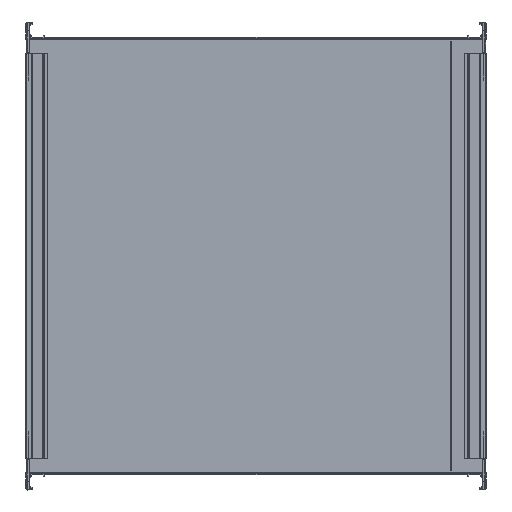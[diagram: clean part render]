
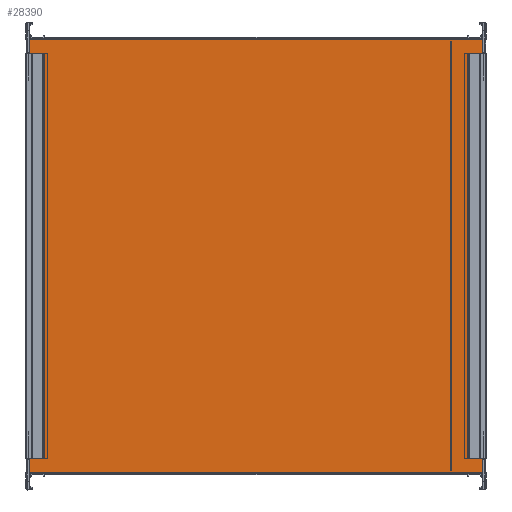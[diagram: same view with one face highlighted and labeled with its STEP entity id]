
A CAD part, front view. The second image highlights one B-rep face of the part: STEP entity #28390.
In plain terms, the highlighted planar face has unit normal (0, -1, 0).
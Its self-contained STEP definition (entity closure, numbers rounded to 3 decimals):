
#865=FACE_BOUND('',#3553,.T.);
#866=FACE_BOUND('',#3554,.T.);
#2084=FACE_OUTER_BOUND('',#3552,.T.);
#3552=EDGE_LOOP('',(#22819,#22820,#22821,#22822,#22823,#22824,#22825,#22826,
#22827,#22828,#22829,#22830));
#3553=EDGE_LOOP('',(#22831,#22832,#22833,#22834));
#3554=EDGE_LOOP('',(#22835,#22836,#22837,#22838));
#5057=LINE('',#39225,#8001);
#5473=LINE('',#42931,#8417);
#6246=LINE('',#45409,#9190);
#6681=LINE('',#47967,#9625);
#6719=LINE('',#48101,#9663);
#6748=LINE('',#48158,#9692);
#6750=LINE('',#48161,#9694);
#6756=LINE('',#48176,#9700);
#6761=LINE('',#48185,#9705);
#6773=LINE('',#48210,#9717);
#6774=LINE('',#48212,#9718);
#6775=LINE('',#48214,#9719);
#6776=LINE('',#48216,#9720);
#6777=LINE('',#48217,#9721);
#6778=LINE('',#48218,#9722);
#6779=LINE('',#48219,#9723);
#6780=LINE('',#48222,#9724);
#6781=LINE('',#48224,#9725);
#6782=LINE('',#48226,#9726);
#6783=LINE('',#48227,#9727);
#8001=VECTOR('',#30939,10.);
#8417=VECTOR('',#31539,10.);
#9190=VECTOR('',#32964,10.);
#9625=VECTOR('',#33897,10.);
#9663=VECTOR('',#34007,10.);
#9692=VECTOR('',#34092,10.);
#9694=VECTOR('',#34096,10.);
#9700=VECTOR('',#34118,10.);
#9705=VECTOR('',#34125,10.);
#9717=VECTOR('',#34141,10.);
#9718=VECTOR('',#34142,10.);
#9719=VECTOR('',#34143,10.);
#9720=VECTOR('',#34144,10.);
#9721=VECTOR('',#34145,10.);
#9722=VECTOR('',#34146,10.);
#9723=VECTOR('',#34147,10.);
#9724=VECTOR('',#34148,10.);
#9725=VECTOR('',#34149,10.);
#9726=VECTOR('',#34150,10.);
#9727=VECTOR('',#34151,10.);
#11002=VERTEX_POINT('',#39222);
#11003=VERTEX_POINT('',#39224);
#11508=VERTEX_POINT('',#42928);
#11509=VERTEX_POINT('',#42930);
#12141=VERTEX_POINT('',#45356);
#12166=VERTEX_POINT('',#45406);
#12167=VERTEX_POINT('',#45408);
#12594=VERTEX_POINT('',#47964);
#12595=VERTEX_POINT('',#47966);
#12620=VERTEX_POINT('',#48016);
#12656=VERTEX_POINT('',#48175);
#12659=VERTEX_POINT('',#48183);
#12670=VERTEX_POINT('',#48209);
#12671=VERTEX_POINT('',#48211);
#12672=VERTEX_POINT('',#48213);
#12673=VERTEX_POINT('',#48215);
#12674=VERTEX_POINT('',#48220);
#12675=VERTEX_POINT('',#48221);
#12676=VERTEX_POINT('',#48223);
#12677=VERTEX_POINT('',#48225);
#13911=EDGE_CURVE('',#11002,#11003,#5057,.T.);
#14661=EDGE_CURVE('',#11509,#11508,#5473,.T.);
#15547=EDGE_CURVE('',#12167,#12166,#6246,.T.);
#16131=EDGE_CURVE('',#12595,#12594,#6681,.T.);
#16201=EDGE_CURVE('',#12141,#12620,#6719,.T.);
#16230=EDGE_CURVE('',#12166,#12595,#6748,.T.);
#16232=EDGE_CURVE('',#12167,#12594,#6750,.T.);
#16238=EDGE_CURVE('',#12656,#12141,#6756,.T.);
#16243=EDGE_CURVE('',#12620,#12659,#6761,.T.);
#16255=EDGE_CURVE('',#12670,#11508,#6773,.T.);
#16256=EDGE_CURVE('',#12670,#12671,#6774,.T.);
#16257=EDGE_CURVE('',#12672,#12671,#6775,.T.);
#16258=EDGE_CURVE('',#12672,#12673,#6776,.T.);
#16259=EDGE_CURVE('',#12673,#11003,#6777,.T.);
#16260=EDGE_CURVE('',#12656,#11002,#6778,.T.);
#16261=EDGE_CURVE('',#12659,#11509,#6779,.T.);
#16262=EDGE_CURVE('',#12674,#12675,#6780,.T.);
#16263=EDGE_CURVE('',#12676,#12675,#6781,.T.);
#16264=EDGE_CURVE('',#12677,#12676,#6782,.T.);
#16265=EDGE_CURVE('',#12677,#12674,#6783,.T.);
#22819=ORIENTED_EDGE('',*,*,#14661,.T.);
#22820=ORIENTED_EDGE('',*,*,#16255,.F.);
#22821=ORIENTED_EDGE('',*,*,#16256,.T.);
#22822=ORIENTED_EDGE('',*,*,#16257,.F.);
#22823=ORIENTED_EDGE('',*,*,#16258,.T.);
#22824=ORIENTED_EDGE('',*,*,#16259,.T.);
#22825=ORIENTED_EDGE('',*,*,#13911,.F.);
#22826=ORIENTED_EDGE('',*,*,#16260,.F.);
#22827=ORIENTED_EDGE('',*,*,#16238,.T.);
#22828=ORIENTED_EDGE('',*,*,#16201,.T.);
#22829=ORIENTED_EDGE('',*,*,#16243,.T.);
#22830=ORIENTED_EDGE('',*,*,#16261,.T.);
#22831=ORIENTED_EDGE('',*,*,#16262,.T.);
#22832=ORIENTED_EDGE('',*,*,#16263,.F.);
#22833=ORIENTED_EDGE('',*,*,#16264,.F.);
#22834=ORIENTED_EDGE('',*,*,#16265,.T.);
#22835=ORIENTED_EDGE('',*,*,#16232,.F.);
#22836=ORIENTED_EDGE('',*,*,#15547,.T.);
#22837=ORIENTED_EDGE('',*,*,#16230,.T.);
#22838=ORIENTED_EDGE('',*,*,#16131,.T.);
#26254=PLANE('',#29733);
#28390=ADVANCED_FACE('',(#2084,#865,#866),#26254,.F.);
#29733=AXIS2_PLACEMENT_3D('',#48208,#34139,#34140);
#30939=DIRECTION('',(-1.,0.,0.));
#31539=DIRECTION('',(-1.,0.,0.));
#32964=DIRECTION('',(-1.,0.,0.));
#33897=DIRECTION('',(1.,0.,0.));
#34007=DIRECTION('',(0.,0.,1.));
#34092=DIRECTION('',(0.,0.,1.));
#34096=DIRECTION('',(0.,0.,1.));
#34118=DIRECTION('',(0.,0.,1.));
#34125=DIRECTION('',(0.,0.,1.));
#34139=DIRECTION('center_axis',(0.,1.,0.));
#34140=DIRECTION('ref_axis',(0.,0.,1.));
#34141=DIRECTION('',(0.,0.,1.));
#34142=DIRECTION('',(0.,0.,-1.));
#34143=DIRECTION('',(0.,0.,1.));
#34144=DIRECTION('',(0.,0.,-1.));
#34145=DIRECTION('',(0.,0.,-1.));
#34146=DIRECTION('',(0.,0.,-1.));
#34147=DIRECTION('',(0.,0.,1.));
#34148=DIRECTION('',(-1.,0.,0.));
#34149=DIRECTION('',(0.,0.,-1.));
#34150=DIRECTION('',(-1.,0.,0.));
#34151=DIRECTION('',(0.,0.,-1.));
#39222=CARTESIAN_POINT('',(505.536,-264.342,-17.));
#39224=CARTESIAN_POINT('',(-24.464,-264.342,-17.));
#39225=CARTESIAN_POINT('',(240.536,-264.342,-17.));
#42928=CARTESIAN_POINT('',(-24.464,-264.342,485.));
#42930=CARTESIAN_POINT('',(505.536,-264.342,485.));
#42931=CARTESIAN_POINT('',(240.536,-264.342,485.));
#45356=CARTESIAN_POINT('',(505.536,-264.342,0.));
#45406=CARTESIAN_POINT('',(486.761,-264.342,0.));
#45408=CARTESIAN_POINT('',(498.481,-264.342,0.));
#45409=CARTESIAN_POINT('',(369.529,-264.342,0.));
#47964=CARTESIAN_POINT('',(498.481,-264.342,468.));
#47966=CARTESIAN_POINT('',(486.761,-264.342,468.));
#47967=CARTESIAN_POINT('',(369.529,-264.342,468.));
#48016=CARTESIAN_POINT('',(505.536,-264.342,468.));
#48101=CARTESIAN_POINT('',(505.536,-264.342,-17.));
#48158=CARTESIAN_POINT('',(486.761,-264.342,0.));
#48161=CARTESIAN_POINT('',(498.481,-264.342,0.));
#48175=CARTESIAN_POINT('',(505.536,-264.342,-15.));
#48176=CARTESIAN_POINT('',(505.536,-264.342,-17.));
#48183=CARTESIAN_POINT('',(505.536,-264.342,483.));
#48185=CARTESIAN_POINT('',(505.536,-264.342,-17.));
#48208=CARTESIAN_POINT('Origin',(240.536,-264.342,234.));
#48209=CARTESIAN_POINT('',(-24.464,-264.342,483.));
#48210=CARTESIAN_POINT('',(-24.464,-264.342,359.));
#48211=CARTESIAN_POINT('',(-24.464,-264.342,468.));
#48212=CARTESIAN_POINT('',(-24.464,-264.342,485.));
#48213=CARTESIAN_POINT('',(-24.464,-264.342,0.));
#48214=CARTESIAN_POINT('',(-24.464,-264.342,351.));
#48215=CARTESIAN_POINT('',(-24.464,-264.342,-15.));
#48216=CARTESIAN_POINT('',(-24.464,-264.342,485.));
#48217=CARTESIAN_POINT('',(-24.464,-264.342,359.));
#48218=CARTESIAN_POINT('',(505.536,-264.342,359.5));
#48219=CARTESIAN_POINT('',(505.536,-264.342,359.5));
#48220=CARTESIAN_POINT('',(-5.689,-264.342,0.));
#48221=CARTESIAN_POINT('',(-17.408,-264.342,0.));
#48222=CARTESIAN_POINT('',(-5.689,-264.342,0.));
#48223=CARTESIAN_POINT('',(-17.408,-264.342,468.));
#48224=CARTESIAN_POINT('',(-17.408,-264.342,468.));
#48225=CARTESIAN_POINT('',(-5.689,-264.342,468.));
#48226=CARTESIAN_POINT('',(-5.689,-264.342,468.));
#48227=CARTESIAN_POINT('',(-5.689,-264.342,468.));
